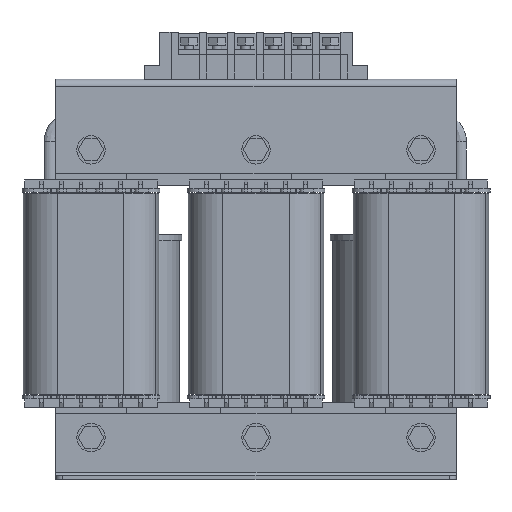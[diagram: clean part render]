
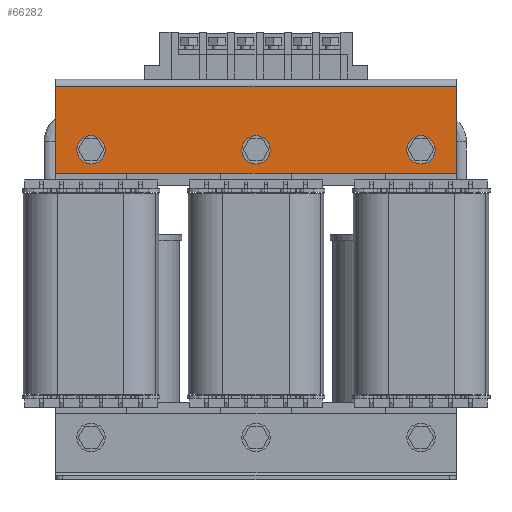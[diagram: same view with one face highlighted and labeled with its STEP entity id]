
A CAD part, front view. The second image highlights one B-rep face of the part: STEP entity #66282.
In plain terms, the highlighted planar face has unit normal (0, -1, 0).
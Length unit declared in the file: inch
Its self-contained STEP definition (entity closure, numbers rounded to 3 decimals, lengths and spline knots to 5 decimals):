
#140 = CARTESIAN_POINT ( 'NONE',  ( 3.34653, 27.03956, 5.11811 ) ) ;
#4620 = DIRECTION ( 'NONE',  ( 0., 0., 1. ) ) ;
#6897 = VERTEX_POINT ( 'NONE', #62596 ) ;
#13626 = AXIS2_PLACEMENT_3D ( 'NONE', #140, #91064, #83632 ) ;
#13871 = EDGE_CURVE ( 'NONE', #6897, #37449, #18085, .T. ) ;
#13955 = EDGE_CURVE ( 'NONE', #37449, #75260, #64800, .T. ) ;
#15581 = PLANE ( 'NONE',  #13626 ) ;
#18085 = LINE ( 'NONE', #63803, #45309 ) ;
#25494 = CARTESIAN_POINT ( 'NONE',  ( 3.34653, 27.03956, 6.5748 ) ) ;
#30573 = ORIENTED_EDGE ( 'NONE', *, *, #45987, .T. ) ;
#31780 = CARTESIAN_POINT ( 'NONE',  ( 3.34653, 27.03956, 5.11811 ) ) ;
#33398 = DIRECTION ( 'NONE',  ( -1., 0., 0. ) ) ;
#37449 = VERTEX_POINT ( 'NONE', #31780 ) ;
#38522 = DIRECTION ( 'NONE',  ( 0., 0., -1. ) ) ;
#45309 = VECTOR ( 'NONE', #65771, 39.37008 ) ;
#45987 = EDGE_CURVE ( 'NONE', #91316, #6897, #74394, .T. ) ;
#46315 = FACE_OUTER_BOUND ( 'NONE', #60615, .T. ) ;
#52311 = VECTOR ( 'NONE', #33398, 39.37008 ) ;
#55332 = CARTESIAN_POINT ( 'NONE',  ( 3.34653, 27.03956, 6.5748 ) ) ;
#56167 = VECTOR ( 'NONE', #38522, 39.37008 ) ;
#59713 = VECTOR ( 'NONE', #4620, 39.37008 ) ;
#60615 = EDGE_LOOP ( 'NONE', ( #30573, #92519, #85134, #85847 ) ) ;
#62596 = CARTESIAN_POINT ( 'NONE',  ( -3.34638, 27.03956, 5.11811 ) ) ;
#63730 = LINE ( 'NONE', #55332, #52311 ) ;
#63803 = CARTESIAN_POINT ( 'NONE',  ( 3.34653, 27.03956, 5.11811 ) ) ;
#64800 = LINE ( 'NONE', #87134, #59713 ) ;
#65081 = EDGE_CURVE ( 'NONE', #75260, #91316, #63730, .T. ) ;
#65771 = DIRECTION ( 'NONE',  ( 1., 0., 0. ) ) ;
#66282 = ADVANCED_FACE ( 'NONE', ( #46315 ), #15581, .T. ) ;
#68392 = CARTESIAN_POINT ( 'NONE',  ( -3.34638, 27.03956, 5.11811 ) ) ;
#74394 = LINE ( 'NONE', #68392, #56167 ) ;
#75260 = VERTEX_POINT ( 'NONE', #25494 ) ;
#83632 = DIRECTION ( 'NONE',  ( 0., 0., -1. ) ) ;
#85134 = ORIENTED_EDGE ( 'NONE', *, *, #13955, .T. ) ;
#85847 = ORIENTED_EDGE ( 'NONE', *, *, #65081, .T. ) ;
#87134 = CARTESIAN_POINT ( 'NONE',  ( 3.34653, 27.03956, 5.11811 ) ) ;
#88152 = CARTESIAN_POINT ( 'NONE',  ( -3.34638, 27.03956, 6.5748 ) ) ;
#91064 = DIRECTION ( 'NONE',  ( 0., -1., 0. ) ) ;
#91316 = VERTEX_POINT ( 'NONE', #88152 ) ;
#92519 = ORIENTED_EDGE ( 'NONE', *, *, #13871, .T. ) ;
